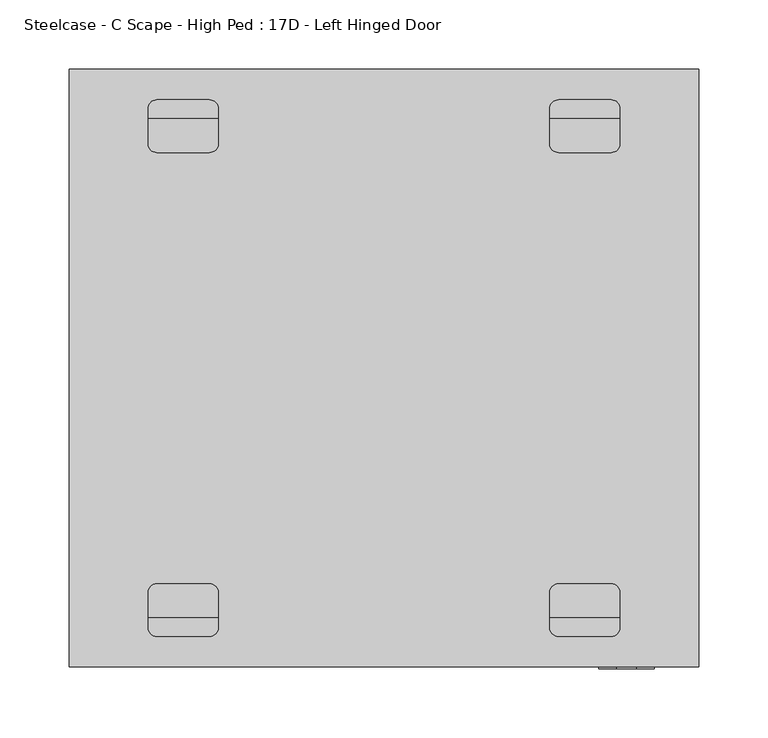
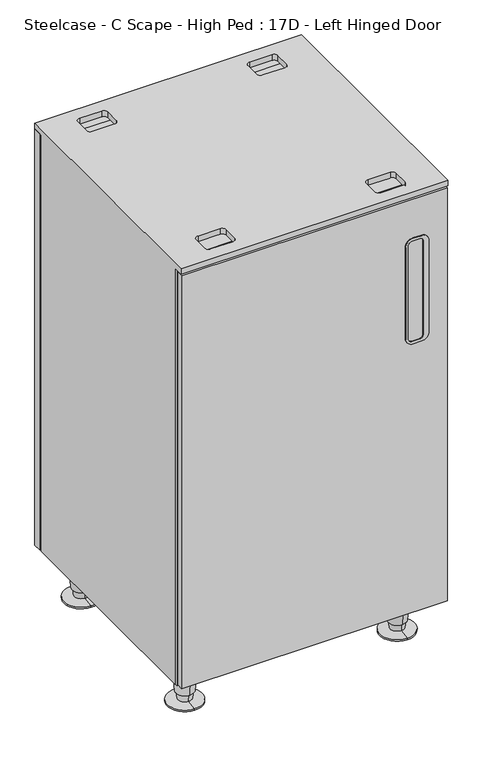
"""IFC4 building model written with IfcOpenShell, lengths in millimetres: furniture geometry, Steelcase - C Scape - High Ped : 17D - Left Hinged Door."""

from ifc_helpers import new_model, si_unit, point, frame, frame_2d, origin, place, context, project, spatial, polyline, circle_curve, trimmed, segment, composite_curve, outline, extrude, faceted_brep, source, transform, mapped, element, save
from ifc_brep_helpers import plane_surface, cylinder_surface, revolved_surface, advanced_brep


def steelcase_c_scape_high_ped_17d_left_hinged_door_7c8358b6(model_context):
    return source(origin(), model_context, "Body", "SolidModel", [
        extrude(outline(polyline([(455.295, 0.0), (455.295, -13.8429225), (445.1174429, -13.8429225), (433.069569, -21.0820155), (21.5898062, -21.0820155), (9.5419322, -13.8429225), (-0.635, -13.8429225), (-0.635, 0.0), (455.295, 0.0)])), frame((0.0, 0.0, 76.2), z_axis=(0.0, 0.0, 1.0), x_axis=(1.0, 0.0, 0.0)), (0.0, 0.0, 1.0), 751.84),
        extrude(outline(composite_curve([segment(polyline([(742.3150339, 382.7782248), (577.2149855, 382.7782248)]), True, "CONTINUOUS"), segment(trimmed(circle_curve(frame_2d((577.2149855, 395.4782248)), 12.7), [point((577.2149855, 382.7782248))], [point((564.5149855, 395.4782248))], False, "CARTESIAN"), True, "CONTINUOUS"), segment(polyline([(564.5149855, 395.4782248), (564.5149855, 410.0827597)]), True, "CONTINUOUS"), segment(trimmed(circle_curve(frame_2d((577.2149855, 410.0827597)), 12.7), [point((564.5149855, 410.0827597))], [point((577.2149855, 422.7827597))], False, "CARTESIAN"), True, "CONTINUOUS"), segment(polyline([(577.2149855, 422.7827597), (742.3150339, 422.7827597)]), True, "CONTINUOUS"), segment(trimmed(circle_curve(frame_2d((742.3150339, 410.0827597)), 12.7), [point((742.3150339, 422.7827597))], [point((755.0150339, 410.0827597))], False, "CARTESIAN"), True, "CONTINUOUS"), segment(polyline([(755.0150339, 410.0827597), (755.0150339, 395.4782248)]), True, "CONTINUOUS"), segment(trimmed(circle_curve(frame_2d((742.3150339, 395.4782248)), 12.7), [point((755.0150339, 395.4782248))], [point((742.3150339, 382.7782248))], False, "CARTESIAN"), True, "CONTINUOUS")], self_intersect=False), holes=[composite_curve([segment(polyline([(743.8390203, 413.0042868), (575.690999, 413.0042868)]), True, "CONTINUOUS"), segment(trimmed(circle_curve(frame_2d((575.690999, 406.6542868)), 6.35), [point((575.690999, 413.0042868))], [point((569.340999, 406.6542868))], True, "CARTESIAN"), True, "CONTINUOUS"), segment(polyline([(569.340999, 406.6542868), (569.340999, 393.954093)]), True, "CONTINUOUS"), segment(trimmed(circle_curve(frame_2d((575.690999, 393.954093)), 6.35), [point((569.340999, 393.954093))], [point((575.690999, 387.604093))], True, "CARTESIAN"), True, "CONTINUOUS"), segment(polyline([(575.690999, 387.604093), (743.8390203, 387.604093)]), True, "CONTINUOUS"), segment(trimmed(circle_curve(frame_2d((743.8390203, 393.954093)), 6.35), [point((743.8390203, 387.604093))], [point((750.1890203, 393.954093))], True, "CARTESIAN"), True, "CONTINUOUS"), segment(polyline([(750.1890203, 393.954093), (750.1890203, 406.6542868)]), True, "CONTINUOUS"), segment(trimmed(circle_curve(frame_2d((743.8390203, 406.6542868)), 6.35), [point((750.1890203, 406.6542868))], [point((743.8390203, 413.0042868))], True, "CARTESIAN"), True, "CONTINUOUS")], self_intersect=False)]), frame((0.0, -434.340126, 0.0), z_axis=(0.0, 1.0, 0.0), x_axis=(0.0, 0.0, 1.0)), (0.0, 0.0, 1.0), 1.270126),
        extrude(outline(polyline([(0.3980765, -433.07), (0.3980765, -422.5289283), (454.5331473, -422.5289283), (454.5331473, -433.07), (0.3980765, -433.07)])), frame((0.0, 0.0, 79.374997), z_axis=(0.0, 0.0, 1.0), x_axis=(1.0, 0.0, 0.0)), (0.0, 0.0, 1.0), 745.4899885),
        extrude(outline(polyline([(11.5822775, -415.036), (11.5822775, -397.2560233), (21.5898062, -397.2560233), (21.5898062, -412.2419845), (9.5419322, -419.4810775), (0.3980765, -419.4810775), (0.3980765, -415.036), (11.5822775, -415.036)])), frame((0.0, 0.0, 76.2), z_axis=(0.0, 0.0, 1.0), x_axis=(1.0, 0.0, 0.0)), (0.0, 0.0, 1.0), 751.84),
        extrude(outline(polyline([(443.0776, -415.036), (454.2616522, -415.036), (454.2616522, -419.4810775), (445.1174429, -419.4810775), (433.07, -412.2422435), (433.07, -397.2560233), (443.0776, -397.2560233), (443.0776, -415.036)])), frame((0.0, 0.0, 76.2), z_axis=(0.0, 0.0, 1.0), x_axis=(1.0, 0.0, 0.0)), (0.0, 0.0, 1.0), 751.84),
        advanced_brep(
        [(408.94, -393.3610306, 0.0), (408.94, -334.1355906, 0.0), (408.94, -363.7483106, 0.0), (408.94, -393.3610306, 2.6912335), (408.94, -334.1355906, 2.6912335), (408.94, -375.7058983, 5.8043097), (408.94, -351.7907229, 5.8043097), (408.94, -376.4000755, 19.05), (408.94, -351.0965457, 19.05), (408.94, -379.1261713, 19.05), (408.94, -348.3704499, 19.05), (408.94, -383.1224886, 76.2), (408.94, -344.3741326, 76.2), (408.94, -363.7483106, 76.2)],
        [
            (0, 1, circle_curve(frame((408.94, -363.7483106, 0.0), z_axis=(0.0, 0.0, -1.0), x_axis=(0.0, 1.0, 0.0)), 29.61272)),
            (1, 2),
            (2, 0),
            (1, 0, circle_curve(frame((408.94, -363.7483106, 0.0), z_axis=(0.0, 0.0, -1.0), x_axis=(0.0, 1.0, 0.0)), 29.61272)),
            (3, 4, circle_curve(frame((408.94, -363.7483106, 2.6912335), z_axis=(0.0, 0.0, -1.0), x_axis=(0.0, 1.0, 0.0)), 29.61272)),
            (4, 1),
            (0, 3),
            (4, 3, circle_curve(frame((408.94, -363.7483106, 2.6912335), z_axis=(0.0, 0.0, -1.0), x_axis=(0.0, 1.0, 0.0)), 29.61272)),
            (5, 6, circle_curve(frame((408.94, -363.7483106, 5.8043097), z_axis=(0.0, 0.0, -1.0), x_axis=(0.0, 1.0, 0.0)), 11.9575877)),
            (6, 4),
            (3, 5),
            (6, 5, circle_curve(frame((408.94, -363.7483106, 5.8043097), z_axis=(0.0, 0.0, -1.0), x_axis=(0.0, 1.0, 0.0)), 11.9575877)),
            (7, 8, circle_curve(frame((408.94, -363.7483106, 19.05), z_axis=(0.0, 0.0, -1.0), x_axis=(0.0, 1.0, 0.0)), 12.6517649)),
            (8, 6),
            (5, 7),
            (8, 7, circle_curve(frame((408.94, -363.7483106, 19.05), z_axis=(0.0, 0.0, -1.0), x_axis=(0.0, 1.0, 0.0)), 12.6517649)),
            (9, 10, circle_curve(frame((408.94, -363.7483106, 19.05), z_axis=(0.0, 0.0, -1.0), x_axis=(0.0, 1.0, 0.0)), 15.3778607)),
            (10, 8),
            (7, 9),
            (10, 9, circle_curve(frame((408.94, -363.7483106, 19.05), z_axis=(0.0, 0.0, -1.0), x_axis=(0.0, 1.0, 0.0)), 15.3778607)),
            (11, 12, circle_curve(frame((408.94, -363.7483106, 76.2), z_axis=(0.0, 0.0, -1.0), x_axis=(0.0, 1.0, 0.0)), 19.374178)),
            (12, 10),
            (9, 11),
            (12, 11, circle_curve(frame((408.94, -363.7483106, 76.2), z_axis=(0.0, 0.0, -1.0), x_axis=(0.0, 1.0, 0.0)), 19.374178)),
            (13, 12),
            (11, 13),
        ],
        [
            plane_surface(frame((408.94, -363.7483106, 0.0), z_axis=(0.0, 0.0, -1.0), x_axis=(0.0, 1.0, 0.0))),
            cylinder_surface(frame((408.94, -363.7483106, -7.7422201), z_axis=(0.0, 0.0, 1.0), x_axis=(0.0, 1.0, 0.0)), 29.61272),
            revolved_surface(polyline([(408.94, -334.1355906, 2.6912335), (408.94, -351.7907229, 5.8043097)]), (408.94, -363.7483106, -7.7422201), (0.0, 0.0, 1.0)),
            revolved_surface(polyline([(408.94, -351.7907229, 5.8043097), (408.94, -351.0965457, 19.05)]), (408.94, -363.7483106, -7.7422201), (0.0, 0.0, 1.0)),
            plane_surface(frame((408.94, -363.7483106, 19.05), z_axis=(0.0, 0.0, -1.0), x_axis=(0.0, 1.0, 0.0))),
            revolved_surface(polyline([(408.94, -348.3704499, 19.05), (408.94, -344.3741326, 76.2)]), (408.94, -363.7483106, -7.7422201), (0.0, 0.0, 1.0)),
            plane_surface(frame((408.94, -363.7483106, 76.2), z_axis=(0.0, 0.0, 1.0), x_axis=(0.0, 1.0, 0.0))),
        ],
        [
            (0, [[1, 2, 3]]),
            (0, [[4, -3, -2]]),
            (1, [[5, 6, -1, 7]]),
            (1, [[8, -7, -4, -6]]),
            (2, [[9, 10, -5, 11]]),
            (2, [[12, -11, -8, -10]]),
            (3, [[13, 14, -9, 15]]),
            (3, [[16, -15, -12, -14]]),
            (4, [[17, 18, -13, 19]]),
            (4, [[20, -19, -16, -18]]),
            (5, [[21, 22, -17, 23]]),
            (5, [[24, -23, -20, -22]]),
            (6, [[25, -21, 26]]),
            (6, [[-26, -24, -25]]),
        ],
    ),
        advanced_brep(
        [(408.94, -37.8824339, 76.2), (408.94, -76.6307898, 76.2), (408.94, -57.2566119, 76.2), (408.94, -41.8787512, 19.05), (408.94, -72.6344725, 19.05), (408.94, -44.6048469, 19.05), (408.94, -69.9083768, 19.05), (408.94, -45.2990242, 5.8043097), (408.94, -69.2141995, 5.8043097), (408.94, -27.6438918, 2.6912335), (408.94, -86.8693319, 2.6912335), (408.94, -27.6438918, 0.0), (408.94, -86.8693319, 0.0), (408.94, -57.2566119, 0.0)],
        [
            (0, 1, circle_curve(frame((408.94, -57.2566119, 76.2), z_axis=(0.0, 0.0, 1.0), x_axis=(0.0, -1.0, 0.0)), 19.374178)),
            (1, 2),
            (2, 0),
            (1, 0, circle_curve(frame((408.94, -57.2566119, 76.2), z_axis=(0.0, 0.0, 1.0), x_axis=(0.0, -1.0, 0.0)), 19.374178)),
            (3, 4, circle_curve(frame((408.94, -57.2566119, 19.05), z_axis=(0.0, 0.0, 1.0), x_axis=(0.0, -1.0, 0.0)), 15.3778607)),
            (4, 1),
            (0, 3),
            (4, 3, circle_curve(frame((408.94, -57.2566119, 19.05), z_axis=(0.0, 0.0, 1.0), x_axis=(0.0, -1.0, 0.0)), 15.3778607)),
            (5, 6, circle_curve(frame((408.94, -57.2566119, 19.05), z_axis=(0.0, 0.0, 1.0), x_axis=(0.0, -1.0, 0.0)), 12.6517649)),
            (6, 4),
            (3, 5),
            (6, 5, circle_curve(frame((408.94, -57.2566119, 19.05), z_axis=(0.0, 0.0, 1.0), x_axis=(0.0, -1.0, 0.0)), 12.6517649)),
            (7, 8, circle_curve(frame((408.94, -57.2566119, 5.8043097), z_axis=(0.0, 0.0, 1.0), x_axis=(0.0, -1.0, 0.0)), 11.9575877)),
            (8, 6),
            (5, 7),
            (8, 7, circle_curve(frame((408.94, -57.2566119, 5.8043097), z_axis=(0.0, 0.0, 1.0), x_axis=(0.0, -1.0, 0.0)), 11.9575877)),
            (9, 10, circle_curve(frame((408.94, -57.2566119, 2.6912335), z_axis=(0.0, 0.0, 1.0), x_axis=(0.0, -1.0, 0.0)), 29.61272)),
            (10, 8),
            (7, 9),
            (10, 9, circle_curve(frame((408.94, -57.2566119, 2.6912335), z_axis=(0.0, 0.0, 1.0), x_axis=(0.0, -1.0, 0.0)), 29.61272)),
            (11, 12, circle_curve(frame((408.94, -57.2566119, 0.0), z_axis=(0.0, 0.0, 1.0), x_axis=(0.0, -1.0, 0.0)), 29.61272)),
            (12, 10),
            (9, 11),
            (12, 11, circle_curve(frame((408.94, -57.2566119, 0.0), z_axis=(0.0, 0.0, 1.0), x_axis=(0.0, -1.0, 0.0)), 29.61272)),
            (13, 12),
            (11, 13),
        ],
        [
            plane_surface(frame((408.94, -57.2566119, 76.2), z_axis=(0.0, 0.0, 1.0), x_axis=(0.0, -1.0, 0.0))),
            revolved_surface(polyline([(408.94, -76.6307898, 76.2), (408.94, -72.6344725, 19.05)]), (408.94, -57.2566119, -7.7422201), (0.0, 0.0, -1.0)),
            plane_surface(frame((408.94, -57.2566119, 19.05), z_axis=(0.0, 0.0, -1.0), x_axis=(0.0, -1.0, 0.0))),
            revolved_surface(polyline([(408.94, -69.9083768, 19.05), (408.94, -69.2141995, 5.8043097)]), (408.94, -57.2566119, -7.7422201), (0.0, 0.0, -1.0)),
            revolved_surface(polyline([(408.94, -69.2141995, 5.8043097), (408.94, -86.8693319, 2.6912335)]), (408.94, -57.2566119, -7.7422201), (0.0, 0.0, -1.0)),
            cylinder_surface(frame((408.94, -57.2566119, -7.7422201), z_axis=(0.0, 0.0, -1.0), x_axis=(0.0, -1.0, 0.0)), 29.61272),
            plane_surface(frame((408.94, -57.2566119, 0.0), z_axis=(0.0, 0.0, -1.0), x_axis=(0.0, -1.0, 0.0))),
        ],
        [
            (0, [[1, 2, 3]]),
            (0, [[4, -3, -2]]),
            (1, [[5, 6, -1, 7]]),
            (1, [[8, -7, -4, -6]]),
            (2, [[9, 10, -5, 11]]),
            (2, [[12, -11, -8, -10]]),
            (3, [[13, 14, -9, 15]]),
            (3, [[16, -15, -12, -14]]),
            (4, [[17, 18, -13, 19]]),
            (4, [[20, -19, -16, -18]]),
            (5, [[21, 22, -17, 23]]),
            (5, [[24, -23, -20, -22]]),
            (6, [[25, -21, 26]]),
            (6, [[-26, -24, -25]]),
        ],
    ),
        advanced_brep(
        [(45.7198062, -383.1224886, 76.2), (45.7198062, -344.3741326, 76.2), (45.7198062, -363.7483106, 76.2), (45.7198062, -379.1261713, 19.05), (45.7198062, -348.3704499, 19.05), (45.7198062, -376.4000755, 19.05), (45.7198062, -351.0965457, 19.05), (45.7198062, -375.7058983, 5.8043097), (45.7198062, -351.7907229, 5.8043097), (45.7198062, -393.3610306, 2.6912335), (45.7198062, -334.1355906, 2.6912335), (45.7198062, -393.3610306, 0.0), (45.7198062, -334.1355906, 0.0), (45.7198062, -363.7483106, 0.0)],
        [
            (0, 1, circle_curve(frame((45.7198062, -363.7483106, 76.2), z_axis=(0.0, 0.0, 1.0), x_axis=(0.0, 1.0, 0.0)), 19.374178)),
            (1, 2),
            (2, 0),
            (1, 0, circle_curve(frame((45.7198062, -363.7483106, 76.2), z_axis=(0.0, 0.0, 1.0), x_axis=(0.0, 1.0, 0.0)), 19.374178)),
            (3, 4, circle_curve(frame((45.7198062, -363.7483106, 19.05), z_axis=(0.0, 0.0, 1.0), x_axis=(0.0, 1.0, 0.0)), 15.3778607)),
            (4, 1),
            (0, 3),
            (4, 3, circle_curve(frame((45.7198062, -363.7483106, 19.05), z_axis=(0.0, 0.0, 1.0), x_axis=(0.0, 1.0, 0.0)), 15.3778607)),
            (5, 6, circle_curve(frame((45.7198062, -363.7483106, 19.05), z_axis=(0.0, 0.0, 1.0), x_axis=(0.0, 1.0, 0.0)), 12.6517649)),
            (6, 4),
            (3, 5),
            (6, 5, circle_curve(frame((45.7198062, -363.7483106, 19.05), z_axis=(0.0, 0.0, 1.0), x_axis=(0.0, 1.0, 0.0)), 12.6517649)),
            (7, 8, circle_curve(frame((45.7198062, -363.7483106, 5.8043097), z_axis=(0.0, 0.0, 1.0), x_axis=(0.0, 1.0, 0.0)), 11.9575877)),
            (8, 6),
            (5, 7),
            (8, 7, circle_curve(frame((45.7198062, -363.7483106, 5.8043097), z_axis=(0.0, 0.0, 1.0), x_axis=(0.0, 1.0, 0.0)), 11.9575877)),
            (9, 10, circle_curve(frame((45.7198062, -363.7483106, 2.6912335), z_axis=(0.0, 0.0, 1.0), x_axis=(0.0, 1.0, 0.0)), 29.61272)),
            (10, 8),
            (7, 9),
            (10, 9, circle_curve(frame((45.7198062, -363.7483106, 2.6912335), z_axis=(0.0, 0.0, 1.0), x_axis=(0.0, 1.0, 0.0)), 29.61272)),
            (11, 12, circle_curve(frame((45.7198062, -363.7483106, 0.0), z_axis=(0.0, 0.0, 1.0), x_axis=(0.0, 1.0, 0.0)), 29.61272)),
            (12, 10),
            (9, 11),
            (12, 11, circle_curve(frame((45.7198062, -363.7483106, 0.0), z_axis=(0.0, 0.0, 1.0), x_axis=(0.0, 1.0, 0.0)), 29.61272)),
            (13, 12),
            (11, 13),
        ],
        [
            plane_surface(frame((45.7198062, -363.7483106, 76.2), z_axis=(0.0, 0.0, 1.0), x_axis=(0.0, 1.0, 0.0))),
            revolved_surface(polyline([(45.7198062, -344.3741326, 76.2), (45.7198062, -348.3704499, 19.05)]), (45.7198062, -363.7483106, -7.7422201), (0.0, 0.0, -1.0)),
            plane_surface(frame((45.7198062, -363.7483106, 19.05), z_axis=(0.0, 0.0, -1.0), x_axis=(0.0, 1.0, 0.0))),
            revolved_surface(polyline([(45.7198062, -351.0965457, 19.05), (45.7198062, -351.7907229, 5.8043097)]), (45.7198062, -363.7483106, -7.7422201), (0.0, 0.0, -1.0)),
            revolved_surface(polyline([(45.7198062, -351.7907229, 5.8043097), (45.7198062, -334.1355906, 2.6912335)]), (45.7198062, -363.7483106, -7.7422201), (0.0, 0.0, -1.0)),
            cylinder_surface(frame((45.7198062, -363.7483106, -7.7422201), z_axis=(0.0, 0.0, -1.0), x_axis=(0.0, 1.0, 0.0)), 29.61272),
            plane_surface(frame((45.7198062, -363.7483106, 0.0), z_axis=(0.0, 0.0, -1.0), x_axis=(0.0, 1.0, 0.0))),
        ],
        [
            (0, [[1, 2, 3]]),
            (0, [[4, -3, -2]]),
            (1, [[5, 6, -1, 7]]),
            (1, [[8, -7, -4, -6]]),
            (2, [[9, 10, -5, 11]]),
            (2, [[12, -11, -8, -10]]),
            (3, [[13, 14, -9, 15]]),
            (3, [[16, -15, -12, -14]]),
            (4, [[17, 18, -13, 19]]),
            (4, [[20, -19, -16, -18]]),
            (5, [[21, 22, -17, 23]]),
            (5, [[24, -23, -20, -22]]),
            (6, [[25, -21, 26]]),
            (6, [[-26, -24, -25]]),
        ],
    ),
        advanced_brep(
        [(45.7198062, -27.6438918, 0.0), (45.7198062, -86.8693319, 0.0), (45.7198062, -57.2566119, 0.0), (45.7198062, -27.6438918, 2.6912335), (45.7198062, -86.8693319, 2.6912335), (45.7198062, -45.2990242, 5.8043097), (45.7198062, -69.2141995, 5.8043097), (45.7198062, -44.6048469, 19.05), (45.7198062, -69.9083768, 19.05), (45.7198062, -41.8787512, 19.05), (45.7198062, -72.6344725, 19.05), (45.7198062, -37.8824339, 76.2), (45.7198062, -76.6307898, 76.2), (45.7198062, -57.2566119, 76.2)],
        [
            (0, 1, circle_curve(frame((45.7198062, -57.2566119, 0.0), z_axis=(0.0, 0.0, -1.0), x_axis=(0.0, -1.0, 0.0)), 29.61272)),
            (1, 2),
            (2, 0),
            (1, 0, circle_curve(frame((45.7198062, -57.2566119, 0.0), z_axis=(0.0, 0.0, -1.0), x_axis=(0.0, -1.0, 0.0)), 29.61272)),
            (3, 4, circle_curve(frame((45.7198062, -57.2566119, 2.6912335), z_axis=(0.0, 0.0, -1.0), x_axis=(0.0, -1.0, 0.0)), 29.61272)),
            (4, 1),
            (0, 3),
            (4, 3, circle_curve(frame((45.7198062, -57.2566119, 2.6912335), z_axis=(0.0, 0.0, -1.0), x_axis=(0.0, -1.0, 0.0)), 29.61272)),
            (5, 6, circle_curve(frame((45.7198062, -57.2566119, 5.8043097), z_axis=(0.0, 0.0, -1.0), x_axis=(0.0, -1.0, 0.0)), 11.9575877)),
            (6, 4),
            (3, 5),
            (6, 5, circle_curve(frame((45.7198062, -57.2566119, 5.8043097), z_axis=(0.0, 0.0, -1.0), x_axis=(0.0, -1.0, 0.0)), 11.9575877)),
            (7, 8, circle_curve(frame((45.7198062, -57.2566119, 19.05), z_axis=(0.0, 0.0, -1.0), x_axis=(0.0, -1.0, 0.0)), 12.6517649)),
            (8, 6),
            (5, 7),
            (8, 7, circle_curve(frame((45.7198062, -57.2566119, 19.05), z_axis=(0.0, 0.0, -1.0), x_axis=(0.0, -1.0, 0.0)), 12.6517649)),
            (9, 10, circle_curve(frame((45.7198062, -57.2566119, 19.05), z_axis=(0.0, 0.0, -1.0), x_axis=(0.0, -1.0, 0.0)), 15.3778607)),
            (10, 8),
            (7, 9),
            (10, 9, circle_curve(frame((45.7198062, -57.2566119, 19.05), z_axis=(0.0, 0.0, -1.0), x_axis=(0.0, -1.0, 0.0)), 15.3778607)),
            (11, 12, circle_curve(frame((45.7198062, -57.2566119, 76.2), z_axis=(0.0, 0.0, -1.0), x_axis=(0.0, -1.0, 0.0)), 19.374178)),
            (12, 10),
            (9, 11),
            (12, 11, circle_curve(frame((45.7198062, -57.2566119, 76.2), z_axis=(0.0, 0.0, -1.0), x_axis=(0.0, -1.0, 0.0)), 19.374178)),
            (13, 12),
            (11, 13),
        ],
        [
            plane_surface(frame((45.7198062, -57.2566119, 0.0), z_axis=(0.0, 0.0, -1.0), x_axis=(0.0, -1.0, 0.0))),
            cylinder_surface(frame((45.7198062, -57.2566119, -7.7422201), z_axis=(0.0, 0.0, 1.0), x_axis=(0.0, -1.0, 0.0)), 29.61272),
            revolved_surface(polyline([(45.7198062, -86.8693319, 2.6912335), (45.7198062, -69.2141995, 5.8043097)]), (45.7198062, -57.2566119, -7.7422201), (0.0, 0.0, 1.0)),
            revolved_surface(polyline([(45.7198062, -69.2141995, 5.8043097), (45.7198062, -69.9083768, 19.05)]), (45.7198062, -57.2566119, -7.7422201), (0.0, 0.0, 1.0)),
            plane_surface(frame((45.7198062, -57.2566119, 19.05), z_axis=(0.0, 0.0, -1.0), x_axis=(0.0, -1.0, 0.0))),
            revolved_surface(polyline([(45.7198062, -72.6344725, 19.05), (45.7198062, -76.6307898, 76.2)]), (45.7198062, -57.2566119, -7.7422201), (0.0, 0.0, 1.0)),
            plane_surface(frame((45.7198062, -57.2566119, 76.2), z_axis=(0.0, 0.0, 1.0), x_axis=(0.0, -1.0, 0.0))),
        ],
        [
            (0, [[1, 2, 3]]),
            (0, [[4, -3, -2]]),
            (1, [[5, 6, -1, 7]]),
            (1, [[8, -7, -4, -6]]),
            (2, [[9, 10, -5, 11]]),
            (2, [[12, -11, -8, -10]]),
            (3, [[13, 14, -9, 15]]),
            (3, [[16, -15, -12, -14]]),
            (4, [[17, 18, -13, 19]]),
            (4, [[20, -19, -16, -18]]),
            (5, [[21, 22, -17, 23]]),
            (5, [[24, -23, -20, -22]]),
            (6, [[25, -21, 26]]),
            (6, [[-26, -24, -25]]),
        ],
    ),
        advanced_brep(
        [(-0.635, -433.07, 838.2), (-0.635, 0.0, 838.2), (-0.635, 0.0, 828.04), (-0.635, -18.288, 828.04), (-0.635, -18.288, 76.2), (-0.635, -415.036, 76.2), (-0.635, -415.036, 828.04), (-0.635, -433.07, 828.04), (455.295, -433.07, 838.2), (455.295, -433.07, 828.04), (455.295, -415.036, 828.04), (455.295, -415.036, 76.2), (455.295, -18.288, 76.2), (455.295, -18.288, 828.04), (455.295, 0.0, 828.04), (455.295, 0.0, 838.2), (21.5898062, -397.2560233, 92.7100024), (433.0701938, -397.2560233, 92.7100024), (433.0701938, -36.0679767, 92.7100024), (21.5898062, -36.0679767, 92.7100024), (443.0777225, -36.0679767, 828.04), (443.0777225, -36.0679767, 76.2), (11.5822775, -36.0679767, 76.2), (11.5822775, -36.0679767, 828.04), (56.5151938, -36.0679767, 828.04), (107.3148062, -36.0679767, 828.04), (347.3449225, -36.0679767, 828.04), (398.1445349, -36.0679767, 828.04), (433.0701938, -36.0679767, 441.604404), (21.5898062, -36.0679767, 441.604404), (21.5898062, -36.0679767, 457.2), (433.0701938, -36.0679767, 457.2), (433.0701938, -36.0679767, 811.5299709), (21.5898062, -36.0679767, 811.5299709), (11.5822775, -18.288, 76.2), (443.0777225, -18.288, 76.2), (443.0777225, -415.036, 76.2), (443.0777225, -397.2560233, 76.2), (11.5822775, -397.2560233, 76.2), (11.5822775, -415.036, 76.2), (347.3449225, -397.2560233, 828.04), (107.3148062, -397.2560233, 828.04), (56.5151938, -397.2560233, 828.04), (11.5822775, -397.2560233, 828.04), (443.0777225, -397.2560233, 828.04), (398.1445349, -397.2560233, 828.04), (21.5898062, -397.2560233, 441.604404), (433.0701938, -397.2560233, 441.604404), (433.0701938, -397.2560233, 457.2), (21.5898062, -397.2560233, 457.2), (21.5898062, -397.2560233, 811.5299709), (433.0701938, -397.2560233, 811.5299709), (100.9648062, -410.9720465, 838.2), (62.8651938, -410.9720465, 838.2), (56.5151938, -404.6212714, 838.2), (56.5151938, -379.2220465, 838.2), (62.8651938, -372.8720465, 838.2), (100.9648062, -372.8720465, 838.2), (107.3148062, -379.2220465, 838.2), (107.3148062, -404.6212714, 838.2), (353.694535, -410.9712714, 838.2), (347.3449225, -404.6212714, 838.2), (347.3449225, -379.2220465, 838.2), (353.6949225, -372.8720465, 838.2), (391.7945349, -372.8720465, 838.2), (398.1445349, -379.2220465, 838.2), (398.1445349, -404.6212714, 838.2), (391.7945349, -410.9712714, 838.2), (107.3148062, -54.1015117, 838.2), (100.9648062, -60.4515117, 838.2), (62.8651938, -60.4522868, 838.2), (56.5151938, -54.1015117, 838.2), (56.5151938, -28.7022868, 838.2), (62.8651938, -22.3522868, 838.2), (100.9648062, -22.3522868, 838.2), (107.3148062, -28.7022868, 838.2), (391.7945349, -60.4522868, 838.2), (353.694535, -60.4522868, 838.2), (347.3449225, -54.1015117, 838.2), (347.3449225, -28.7022868, 838.2), (353.6949225, -22.3522868, 838.2), (391.7945349, -22.3522868, 838.2), (398.1445349, -28.7022868, 838.2), (398.1445349, -54.1015117, 838.2), (443.0777225, -18.288, 828.04), (398.1445349, -28.7022868, 828.04), (391.7945349, -22.3522868, 828.04), (353.6949225, -22.3522868, 828.04), (347.3449225, -28.7022868, 828.04), (107.3148062, -28.7022868, 828.04), (100.9648062, -22.3522868, 828.04), (62.8651938, -22.3522868, 828.04), (56.5151938, -28.7022868, 828.04), (11.5822775, -18.288, 828.04), (11.5822775, -415.036, 828.04), (56.5151938, -404.6212714, 828.04), (62.8651938, -410.9712714, 828.04), (100.9648062, -410.9720465, 828.04), (107.3148062, -404.6212714, 828.04), (347.3449225, -404.6212714, 828.04), (353.694535, -410.9712714, 828.04), (391.7945349, -410.9720465, 828.04), (398.1445349, -404.6212714, 828.04), (443.0777225, -415.036, 828.04), (107.3148062, -379.2220465, 828.04), (100.9648062, -372.8720465, 828.04), (62.8651938, -372.8720465, 828.04), (56.5151938, -379.2220465, 828.04), (398.1445349, -379.2220465, 828.04), (391.7945349, -372.8720465, 828.04), (353.6949225, -372.8720465, 828.04), (347.3449225, -379.2220465, 828.04), (100.9648062, -60.4515117, 828.04), (107.3148062, -54.1015117, 828.04), (56.5151938, -54.1015117, 828.04), (62.8651938, -60.4515117, 828.04), (353.6945349, -60.4522868, 828.04), (391.7945349, -60.4522868, 828.04), (398.1445349, -54.1015117, 828.04), (347.3449225, -54.1015117, 828.04)],
        [
            (0, 1),
            (1, 2),
            (2, 3),
            (3, 4),
            (4, 5),
            (5, 6),
            (6, 7),
            (7, 0),
            (8, 9),
            (9, 10),
            (10, 11),
            (11, 12),
            (12, 13),
            (13, 14),
            (14, 15),
            (15, 8),
            (16, 17),
            (17, 18),
            (18, 19),
            (19, 16),
            (20, 21),
            (21, 22),
            (22, 23),
            (23, 24),
            (24, 25),
            (25, 26),
            (26, 27),
            (27, 20),
            (18, 28),
            (28, 29),
            (29, 19),
            (30, 31),
            (31, 32),
            (32, 33),
            (33, 30),
            (34, 22),
            (21, 35),
            (35, 12),
            (11, 36),
            (36, 37),
            (37, 38),
            (38, 39),
            (39, 5),
            (4, 34),
            (40, 41),
            (41, 42),
            (42, 43),
            (43, 38),
            (37, 44),
            (44, 45),
            (45, 40),
            (16, 46),
            (46, 47),
            (47, 17),
            (48, 49),
            (49, 50),
            (50, 51),
            (51, 48),
            (48, 31),
            (30, 49),
            (28, 47),
            (46, 29),
            (0, 8),
            (15, 1),
            (52, 53),
            (53, 54, circle_curve(frame((62.8651938, -404.6212714, 838.2), z_axis=(0.0, 0.0, -1.0), x_axis=(0.0, -1.0, 0.0)), 6.35)),
            (54, 55),
            (55, 56, circle_curve(frame((62.8651938, -379.2220465, 838.2), z_axis=(0.0, 0.0, -1.0), x_axis=(0.0, -1.0, 0.0)), 6.35)),
            (56, 57),
            (57, 58, circle_curve(frame((100.9648062, -379.2220465, 838.2), z_axis=(0.0, 0.0, -1.0), x_axis=(0.0, -1.0, 0.0)), 6.35)),
            (58, 59),
            (59, 52, circle_curve(frame((100.9648062, -404.6212714, 838.2), z_axis=(0.0, 0.0, -1.0), x_axis=(0.0, -1.0, 0.0)), 6.35)),
            (60, 61, circle_curve(frame((353.6949225, -404.6212714, 838.2), z_axis=(0.0, 0.0, -1.0), x_axis=(0.0, -1.0, 0.0)), 6.35)),
            (61, 62),
            (62, 63, circle_curve(frame((353.6949225, -379.2220465, 838.2), z_axis=(0.0, 0.0, -1.0), x_axis=(0.0, -1.0, 0.0)), 6.35)),
            (63, 64),
            (64, 65, circle_curve(frame((391.7945349, -379.2220465, 838.2), z_axis=(0.0, 0.0, -1.0), x_axis=(0.0, -1.0, 0.0)), 6.35)),
            (65, 66),
            (66, 67, circle_curve(frame((391.7945349, -404.6212714, 838.2), z_axis=(0.0, 0.0, -1.0), x_axis=(0.0, -1.0, 0.0)), 6.35)),
            (67, 60),
            (68, 69, circle_curve(frame((100.9648062, -54.1015117, 838.2), z_axis=(0.0, 0.0, -1.0), x_axis=(0.0, 1.0, 0.0)), 6.35)),
            (69, 70),
            (70, 71, circle_curve(frame((62.8651938, -54.1015117, 838.2), z_axis=(0.0, 0.0, -1.0), x_axis=(0.0, 1.0, 0.0)), 6.35)),
            (71, 72),
            (72, 73, circle_curve(frame((62.8651938, -28.7022868, 838.2), z_axis=(0.0, 0.0, -1.0), x_axis=(0.0, 1.0, 0.0)), 6.35)),
            (73, 74),
            (74, 75, circle_curve(frame((100.9648062, -28.7022868, 838.2), z_axis=(0.0, 0.0, -1.0), x_axis=(0.0, 1.0, 0.0)), 6.35)),
            (75, 68),
            (76, 77),
            (77, 78, circle_curve(frame((353.6949225, -54.1015117, 838.2), z_axis=(0.0, 0.0, -1.0), x_axis=(0.0, 1.0, 0.0)), 6.35)),
            (78, 79),
            (79, 80, circle_curve(frame((353.6949225, -28.7022868, 838.2), z_axis=(0.0, 0.0, -1.0), x_axis=(0.0, 1.0, 0.0)), 6.35)),
            (80, 81),
            (81, 82, circle_curve(frame((391.7945349, -28.7022868, 838.2), z_axis=(0.0, 0.0, -1.0), x_axis=(0.0, 1.0, 0.0)), 6.35)),
            (82, 83),
            (83, 76, circle_curve(frame((391.7945349, -54.1015117, 838.2), z_axis=(0.0, 0.0, -1.0), x_axis=(0.0, 1.0, 0.0)), 6.35)),
            (14, 2),
            (13, 84),
            (84, 20),
            (27, 85),
            (85, 86, circle_curve(frame((391.7945349, -28.7022868, 828.04), z_axis=(0.0, 0.0, 1.0), x_axis=(0.0, 1.0, 0.0)), 6.35)),
            (86, 87),
            (87, 88, circle_curve(frame((353.6949225, -28.7022868, 828.04), z_axis=(0.0, 0.0, 1.0), x_axis=(0.0, 1.0, 0.0)), 6.35)),
            (88, 26),
            (25, 89),
            (89, 90, circle_curve(frame((100.9648062, -28.7022868, 828.04), z_axis=(0.0, 0.0, 1.0), x_axis=(0.0, 1.0, 0.0)), 6.35)),
            (90, 91),
            (91, 92, circle_curve(frame((62.8651938, -28.7022868, 828.04), z_axis=(0.0, 0.0, 1.0), x_axis=(0.0, 1.0, 0.0)), 6.35)),
            (92, 24),
            (23, 93),
            (93, 3),
            (32, 51),
            (50, 33),
            (9, 7),
            (6, 94),
            (94, 43),
            (42, 95),
            (95, 96, circle_curve(frame((62.8651938, -404.6212714, 828.04), z_axis=(0.0, 0.0, 1.0), x_axis=(0.0, -1.0, 0.0)), 6.35)),
            (96, 97),
            (97, 98, circle_curve(frame((100.9648062, -404.6212714, 828.04), z_axis=(0.0, 0.0, 1.0), x_axis=(0.0, -1.0, 0.0)), 6.35)),
            (98, 41),
            (40, 99),
            (99, 100, circle_curve(frame((353.6949225, -404.6212714, 828.04), z_axis=(0.0, 0.0, 1.0), x_axis=(0.0, -1.0, 0.0)), 6.35)),
            (100, 101),
            (101, 102, circle_curve(frame((391.7945349, -404.6212714, 828.04), z_axis=(0.0, 0.0, 1.0), x_axis=(0.0, -1.0, 0.0)), 6.35)),
            (102, 45),
            (44, 103),
            (103, 10),
            (104, 105, circle_curve(frame((100.9648062, -379.2220465, 828.04), z_axis=(0.0, 0.0, 1.0), x_axis=(0.0, -1.0, 0.0)), 6.35)),
            (105, 106),
            (106, 107, circle_curve(frame((62.8651938, -379.2220465, 828.04), z_axis=(0.0, 0.0, 1.0), x_axis=(0.0, -1.0, 0.0)), 6.35)),
            (107, 42),
            (41, 104),
            (108, 109, circle_curve(frame((391.7945349, -379.2220465, 828.04), z_axis=(0.0, 0.0, 1.0), x_axis=(0.0, -1.0, 0.0)), 6.35)),
            (109, 110),
            (110, 111, circle_curve(frame((353.6949225, -379.2220465, 828.04), z_axis=(0.0, 0.0, 1.0), x_axis=(0.0, -1.0, 0.0)), 6.35)),
            (111, 40),
            (45, 108),
            (96, 53),
            (52, 97),
            (95, 54),
            (107, 55),
            (106, 56),
            (105, 57),
            (104, 58),
            (98, 59),
            (99, 61),
            (60, 100),
            (111, 62),
            (110, 63),
            (109, 64),
            (108, 65),
            (102, 66),
            (101, 67),
            (93, 34),
            (39, 94),
            (84, 35),
            (36, 103),
            (112, 113, circle_curve(frame((100.9648062, -54.1015117, 828.04), z_axis=(0.0, 0.0, 1.0), x_axis=(0.0, 1.0, 0.0)), 6.35)),
            (113, 25),
            (24, 114),
            (114, 115, circle_curve(frame((62.8651938, -54.1015117, 828.04), z_axis=(0.0, 0.0, 1.0), x_axis=(0.0, 1.0, 0.0)), 6.35)),
            (115, 112),
            (116, 117),
            (117, 118, circle_curve(frame((391.7945349, -54.1015117, 828.04), z_axis=(0.0, 0.0, 1.0), x_axis=(0.0, 1.0, 0.0)), 6.35)),
            (118, 27),
            (26, 119),
            (119, 116, circle_curve(frame((353.6949225, -54.1015117, 828.04), z_axis=(0.0, 0.0, 1.0), x_axis=(0.0, 1.0, 0.0)), 6.35)),
            (115, 70),
            (69, 112),
            (114, 71),
            (92, 72),
            (91, 73),
            (90, 74),
            (89, 75),
            (113, 68),
            (119, 78),
            (77, 116),
            (88, 79),
            (87, 80),
            (86, 81),
            (85, 82),
            (118, 83),
            (117, 76),
        ],
        [
            plane_surface(frame((-0.635, -36.0679767, 92.7100024), z_axis=(-1.0, 0.0, 0.0), x_axis=(0.0, 1.0, 0.0))),
            plane_surface(frame((455.295, -36.0679767, 92.7100024), z_axis=(1.0, 0.0, 0.0), x_axis=(0.0, -1.0, 0.0))),
            plane_surface(frame((-0.635, -397.2560233, 92.7100024), z_axis=(0.0, 0.0, 1.0), x_axis=(1.0, 0.0, 0.0))),
            plane_surface(frame((-0.635, -36.0679767, 92.7100024), z_axis=(0.0, 1.0, 0.0), x_axis=(1.0, 0.0, 0.0))),
            plane_surface(frame((-0.635, -36.0679767, 76.2), z_axis=(0.0, 0.0, -1.0), x_axis=(1.0, 0.0, 0.0))),
            plane_surface(frame((-0.635, -397.2560233, 76.2), z_axis=(0.0, -1.0, 0.0), x_axis=(1.0, 0.0, 0.0))),
            plane_surface(frame((-0.635, -397.2560233, 457.2), z_axis=(0.0, 0.0, 1.0), x_axis=(1.0, 0.0, 0.0))),
            plane_surface(frame((-0.635, -36.0679767, 441.604404), z_axis=(0.0, 0.0, -1.0), x_axis=(1.0, 0.0, 0.0))),
            plane_surface(frame((-0.635, -433.07, 838.2), z_axis=(0.0, 0.0, 1.0), x_axis=(1.0, 0.0, 0.0))),
            plane_surface(frame((-0.635, 0.0, 838.2), z_axis=(0.0, 1.0, 0.0), x_axis=(1.0, 0.0, 0.0))),
            plane_surface(frame((-0.635, 0.0, 828.04), z_axis=(0.0, 0.0, -1.0), x_axis=(1.0, 0.0, 0.0))),
            plane_surface(frame((-0.635, -36.0679767, 811.5299709), z_axis=(0.0, 0.0, -1.0), x_axis=(1.0, 0.0, 0.0))),
            plane_surface(frame((-0.635, -397.2560233, 828.04), z_axis=(0.0, 0.0, -1.0), x_axis=(1.0, 0.0, 0.0))),
            plane_surface(frame((-0.635, -433.07, 828.04), z_axis=(0.0, -1.0, 0.0), x_axis=(1.0, 0.0, 0.0))),
            plane_surface(frame((62.8651938, -410.9720465, 828.04), z_axis=(0.0, 0.0, 1.0), x_axis=(-1.0, 0.0, 0.0))),
            plane_surface(frame((100.9651938, -410.9720465, 828.04), z_axis=(0.0, 1.0, 0.0), x_axis=(0.0, 0.0, 1.0))),
            revolved_surface(polyline([(62.8651938, -410.97127140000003, 828.04), (62.8651938, -410.97127140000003, 838.2)]), (62.8651938, -404.6212714, 838.2), (0.0, 0.0, -1.0)),
            plane_surface(frame((56.5151938, -404.6212714, 828.04), z_axis=(1.0, 0.0, 0.0), x_axis=(0.0, 0.0, 1.0))),
            revolved_surface(polyline([(62.8651938, -385.5720465, 828.04), (62.8651938, -385.5720465, 838.2)]), (62.8651938, -379.2220465, 838.2), (0.0, 0.0, -1.0)),
            plane_surface(frame((62.8651938, -372.8720465, 828.04), z_axis=(0.0, -1.0, 0.0), x_axis=(0.0, 0.0, 1.0))),
            revolved_surface(polyline([(100.9648062, -385.5720465, 828.04), (100.9648062, -385.5720465, 838.2)]), (100.9648062, -379.2220465, 838.2), (0.0, 0.0, -1.0)),
            plane_surface(frame((107.3148062, -379.2220465, 828.04), z_axis=(-1.0, 0.0, 0.0), x_axis=(0.0, 0.0, 1.0))),
            revolved_surface(polyline([(100.9648062, -410.97127140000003, 828.04), (100.9648062, -410.97127140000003, 838.2)]), (100.9648062, -404.6212714, 838.2), (0.0, 0.0, -1.0)),
            revolved_surface(polyline([(353.6949225, -410.97127140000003, 828.04), (353.6949225, -410.97127140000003, 838.2)]), (353.6949225, -404.6212714, 0.0), (0.0, 0.0, -1.0)),
            plane_surface(frame((347.3449225, -404.6212714, 828.04), z_axis=(1.0, 0.0, 0.0), x_axis=(0.0, 0.0, 1.0))),
            revolved_surface(polyline([(353.6949225, -385.5720465, 828.04), (353.6949225, -385.5720465, 838.2)]), (353.6949225, -379.2220465, 0.0), (0.0, 0.0, -1.0)),
            plane_surface(frame((353.6949225, -372.8720465, 828.04), z_axis=(0.0, -1.0, 0.0), x_axis=(0.0, 0.0, 1.0))),
            revolved_surface(polyline([(391.7945349, -385.5720465, 828.04), (391.7945349, -385.5720465, 838.2)]), (391.7945349, -379.2220465, 0.0), (0.0, 0.0, -1.0)),
            plane_surface(frame((398.1445349, -379.2220465, 828.04), z_axis=(-1.0, 0.0, 0.0), x_axis=(0.0, 0.0, 1.0))),
            revolved_surface(polyline([(391.7945349, -410.97127140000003, 828.04), (391.7945349, -410.97127140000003, 838.2)]), (391.7945349, -404.6212714, 0.0), (0.0, 0.0, -1.0)),
            plane_surface(frame((391.7945349, -410.9720465, 828.04), z_axis=(0.0, 1.0, 0.0), x_axis=(0.0, 0.0, 1.0))),
            plane_surface(frame((11.5822775, -18.288, 828.04), z_axis=(0.0, 1.0, 0.0), x_axis=(0.0, 0.0, -1.0))),
            plane_surface(frame((-0.635, -415.036, 828.04), z_axis=(0.0, -1.0, 0.0), x_axis=(0.0, 0.0, -1.0))),
            plane_surface(frame((11.5822775, -415.036, 828.04), z_axis=(1.0, 0.0, 0.0), x_axis=(0.0, 0.0, -1.0))),
            plane_surface(frame((21.5898062, -397.2560233, 828.04), z_axis=(1.0, 0.0, 0.0), x_axis=(0.0, 0.0, -1.0))),
            plane_surface(frame((11.5822775, -36.0679767, 828.04), z_axis=(1.0, 0.0, 0.0), x_axis=(0.0, 0.0, -1.0))),
            plane_surface(frame((443.0777225, -18.288, 828.04), z_axis=(-1.0, 0.0, 0.0), x_axis=(0.0, 0.0, -1.0))),
            plane_surface(frame((433.0701938, -36.0679767, 828.04), z_axis=(-1.0, 0.0, 0.0), x_axis=(0.0, 0.0, -1.0))),
            plane_surface(frame((443.0777225, -397.2560233, 828.04), z_axis=(-1.0, 0.0, 0.0), x_axis=(0.0, 0.0, -1.0))),
            plane_surface(frame((443.0777225, -415.036, 828.04), z_axis=(0.0, -1.0, 0.0), x_axis=(0.0, 0.0, -1.0))),
            plane_surface(frame((455.295, -18.288, 828.04), z_axis=(0.0, 1.0, 0.0), x_axis=(0.0, 0.0, -1.0))),
            plane_surface(frame((62.8651938, -60.4522868, 828.04), z_axis=(0.0, 0.0, 1.0), x_axis=(-1.0, 0.0, 0.0))),
            plane_surface(frame((100.9651938, -60.4522868, 828.04), z_axis=(0.0, 1.0, 0.0), x_axis=(0.0, 0.0, 1.0))),
            revolved_surface(polyline([(62.8651938, -47.7515117, 828.04), (62.8651938, -47.7515117, 838.2)]), (62.8651938, -54.1015117, 838.2), (0.0, 0.0, -1.0)),
            plane_surface(frame((56.5151938, -54.1015117, 828.04), z_axis=(1.0, 0.0, 0.0), x_axis=(0.0, 0.0, 1.0))),
            revolved_surface(polyline([(62.8651938, -22.3522868, 828.04), (62.8651938, -22.3522868, 838.2)]), (62.8651938, -28.7022868, 838.2), (0.0, 0.0, -1.0)),
            plane_surface(frame((62.8651938, -22.3522868, 828.04), z_axis=(0.0, -1.0, 0.0), x_axis=(0.0, 0.0, 1.0))),
            revolved_surface(polyline([(100.9648062, -22.3522868, 828.04), (100.9648062, -22.3522868, 838.2)]), (100.9648062, -28.7022868, 838.2), (0.0, 0.0, -1.0)),
            plane_surface(frame((107.3148062, -28.7022868, 828.04), z_axis=(-1.0, 0.0, 0.0), x_axis=(0.0, 0.0, 1.0))),
            revolved_surface(polyline([(100.9648062, -47.7515117, 828.04), (100.9648062, -47.7515117, 838.2)]), (100.9648062, -54.1015117, 838.2), (0.0, 0.0, -1.0)),
            revolved_surface(polyline([(353.6949225, -47.7515117, 828.04), (353.6949225, -47.7515117, 838.2)]), (353.6949225, -54.1015117, 0.0), (0.0, 0.0, -1.0)),
            plane_surface(frame((347.3449225, -54.1015117, 828.04), z_axis=(1.0, 0.0, 0.0), x_axis=(0.0, 0.0, 1.0))),
            revolved_surface(polyline([(353.6949225, -22.3522868, 828.04), (353.6949225, -22.3522868, 838.2)]), (353.6949225, -28.7022868, 0.0), (0.0, 0.0, -1.0)),
            plane_surface(frame((353.6949225, -22.3522868, 828.04), z_axis=(0.0, -1.0, 0.0), x_axis=(0.0, 0.0, 1.0))),
            revolved_surface(polyline([(391.7945349, -22.3522868, 828.04), (391.7945349, -22.3522868, 838.2)]), (391.7945349, -28.7022868, 0.0), (0.0, 0.0, -1.0)),
            plane_surface(frame((398.1445349, -28.7022868, 828.04), z_axis=(-1.0, 0.0, 0.0), x_axis=(0.0, 0.0, 1.0))),
            revolved_surface(polyline([(391.7945349, -47.7515117, 828.04), (391.7945349, -47.7515117, 838.2)]), (391.7945349, -54.1015117, 0.0), (0.0, 0.0, -1.0)),
            plane_surface(frame((391.7945349, -60.4522868, 828.04), z_axis=(0.0, 1.0, 0.0), x_axis=(0.0, 0.0, 1.0))),
        ],
        [
            (0, [[1, 2, 3, 4, 5, 6, 7, 8]]),
            (1, [[9, 10, 11, 12, 13, 14, 15, 16]]),
            (2, [[17, 18, 19, 20]]),
            (3, [[21, 22, 23, 24, 25, 26, 27, 28], [-19, 29, 30, 31], [32, 33, 34, 35]]),
            (4, [[36, -22, 37, 38, -12, 39, 40, 41, 42, 43, -5, 44]]),
            (5, [[45, 46, 47, 48, -41, 49, 50, 51], [-17, 52, 53, 54], [55, 56, 57, 58]]),
            (6, [[-55, 59, -32, 60]]),
            (7, [[-30, 61, -53, 62]]),
            (8, [[-1, 63, -16, 64], [65, 66, 67, 68, 69, 70, 71, 72], [73, 74, 75, 76, 77, 78, 79, 80], [81, 82, 83, 84, 85, 86, 87, 88], [89, 90, 91, 92, 93, 94, 95, 96]]),
            (9, [[-2, -64, -15, 97]]),
            (10, [[-97, -14, 98, 99, -28, 100, 101, 102, 103, 104, -26, 105, 106, 107, 108, 109, -24, 110, 111, -3]]),
            (11, [[-34, 112, -57, 113]]),
            (12, [[114, -7, 115, 116, -47, 117, 118, 119, 120, 121, -45, 122, 123, 124, 125, 126, -50, 127, 128, -10]]),
            (13, [[-8, -114, -9, -63]]),
            (14, [[129, 130, 131, 132, -46, 133]]),
            (14, [[134, 135, 136, 137, -51, 138]]),
            (15, [[139, -65, 140, -119]]),
            (16, [[-139, -118, 141, -66]]),
            (17, [[-141, -117, -132, 142, -67]]),
            (18, [[-131, 143, -68, -142]]),
            (19, [[-130, 144, -69, -143]]),
            (20, [[-129, 145, -70, -144]]),
            (21, [[-145, -133, -121, 146, -71]]),
            (22, [[-140, -72, -146, -120]]),
            (23, [[147, -73, 148, -123]]),
            (24, [[-147, -122, -137, 149, -74]]),
            (25, [[-136, 150, -75, -149]]),
            (26, [[-135, 151, -76, -150]]),
            (27, [[-134, 152, -77, -151]]),
            (28, [[-152, -138, -126, 153, -78]]),
            (29, [[-153, -125, 154, -79]]),
            (30, [[-148, -80, -154, -124]]),
            (31, [[-44, -4, -111, 155]]),
            (32, [[-43, 156, -115, -6]]),
            (33, [[-42, -48, -116, -156]]),
            (34, [[-31, -62, -52, -20]]),
            (34, [[-35, -113, -56, -60]]),
            (35, [[-36, -155, -110, -23]]),
            (36, [[-37, -21, -99, 157]]),
            (37, [[-29, -18, -54, -61]]),
            (37, [[-33, -59, -58, -112]]),
            (38, [[-40, 158, -127, -49]]),
            (39, [[-39, -11, -128, -158]]),
            (40, [[-38, -157, -98, -13]]),
            (41, [[159, 160, -25, 161, 162, 163]]),
            (41, [[164, 165, 166, -27, 167, 168]]),
            (42, [[-163, 169, -82, 170]]),
            (43, [[-162, 171, -83, -169]]),
            (44, [[-171, -161, -109, 172, -84]]),
            (45, [[-172, -108, 173, -85]]),
            (46, [[-173, -107, 174, -86]]),
            (47, [[-174, -106, 175, -87]]),
            (48, [[-175, -105, -160, 176, -88]]),
            (49, [[-159, -170, -81, -176]]),
            (50, [[-168, 177, -90, 178]]),
            (51, [[-177, -167, -104, 179, -91]]),
            (52, [[-179, -103, 180, -92]]),
            (53, [[-180, -102, 181, -93]]),
            (54, [[-181, -101, 182, -94]]),
            (55, [[-182, -100, -166, 183, -95]]),
            (56, [[-165, 184, -96, -183]]),
            (57, [[-164, -178, -89, -184]]),
        ],
    ),
        faceted_brep([(11.5822775, -18.288, 828.04), (11.5822775, -36.0679767, 828.04), (443.0776, -36.0679767, 828.04), (443.0776, -18.288, 828.04), (454.2616522, -18.288, 828.04), (454.2616522, -13.8429225, 828.04), (445.1174429, -13.8429225, 828.04), (433.07, -21.0817565, 828.04), (433.07, -21.8438876, 828.04), (21.5898062, -21.8438876, 828.04), (21.5898062, -21.0820155, 828.04), (9.5419322, -13.8429225, 828.04), (0.3980765, -13.8429225, 828.04), (0.3980765, -18.288, 828.04), (11.5822775, -18.288, 76.2), (0.3980765, -18.288, 76.2), (0.3980765, -13.8429225, 76.2), (9.5419322, -13.8429225, 76.2), (21.5898062, -21.0820155, 76.2), (21.5898062, -21.8438876, 76.2), (433.07, -21.8438876, 76.2), (433.07, -21.0817565, 76.2), (445.1174429, -13.8429225, 76.2), (454.2616522, -13.8429225, 76.2), (454.2616522, -18.288, 76.2), (443.0776, -18.288, 76.2), (443.0776, -36.0679767, 76.2), (11.5822775, -36.0679767, 76.2), (21.5898062, -36.0679767, 811.5299709), (433.07, -36.0679767, 811.5299709), (433.07, -36.0679767, 457.2), (21.5898062, -36.0679767, 457.2), (21.5898062, -36.0679767, 441.604404), (433.07, -36.0679767, 441.604404), (433.07, -36.0679767, 92.7100024), (21.5898062, -36.0679767, 92.7100024), (21.5898062, -21.8438876, 811.5299709), (21.5898062, -21.8438876, 457.2), (21.5898062, -21.8438876, 441.604404), (21.5898062, -21.8438876, 92.7100024), (433.07, -21.8438876, 92.7100024), (433.07, -21.8438876, 441.604404), (433.07, -21.8438876, 457.2), (433.07, -21.8438876, 811.5299709)], [[[0, 1, 2, 3, 4, 5, 6, 7, 8, 9, 10, 11, 12, 13]], [[14, 15, 16, 17, 18, 19, 20, 21, 22, 23, 24, 25, 26, 27]], [[1, 0, 14, 27]], [[2, 1, 27, 26], [28, 29, 30, 31], [32, 33, 34, 35]], [[18, 10, 9, 36, 28, 31, 37, 38, 32, 35, 39, 19]], [[11, 10, 18, 17]], [[12, 11, 17, 16]], [[13, 12, 16, 15]], [[0, 13, 15, 14]], [[4, 3, 25, 24]], [[5, 4, 24, 23]], [[6, 5, 23, 22]], [[7, 6, 22, 21]], [[7, 21, 20, 40, 34, 33, 41, 42, 30, 29, 43, 8]], [[3, 2, 26, 25]], [[29, 28, 36, 43]], [[43, 36, 9, 8]], [[33, 32, 38, 41]], [[41, 38, 37, 42]], [[31, 30, 42, 37]], [[20, 19, 39, 40]], [[35, 34, 40, 39]]]),
        faceted_brep([(433.07, -411.4800097, 828.04), (433.07, -411.4800097, 811.5299709), (433.07, -397.2560233, 811.5299709), (433.07, -397.2560233, 828.04), (21.5898062, -411.4800097, 828.04), (21.5898062, -397.2560233, 828.04), (21.5898062, -397.2560233, 811.5299709), (21.5898062, -411.4800097, 811.5299709)], [[[0, 1, 2, 3]], [[4, 5, 6, 7]], [[1, 0, 4, 7]], [[2, 1, 7, 6]], [[3, 2, 6, 5]], [[0, 3, 5, 4]]]),
        faceted_brep([(433.07, -411.4800097, 457.2), (433.07, -411.4800097, 441.604404), (433.07, -397.2560233, 441.604404), (433.07, -397.2560233, 457.2), (21.5898062, -411.4800097, 457.2), (21.5898062, -397.2560233, 457.2), (21.5898062, -397.2560233, 441.604404), (21.5898062, -411.4800097, 441.604404)], [[[0, 1, 2, 3]], [[4, 5, 6, 7]], [[1, 0, 4, 7]], [[2, 1, 7, 6]], [[3, 2, 6, 5]], [[0, 3, 5, 4]]]),
        faceted_brep([(433.07, -411.4800097, 92.7100024), (433.07, -411.4800097, 76.2), (433.07, -397.2560233, 76.2), (433.07, -397.2560233, 92.7100024), (21.5898062, -411.4800097, 92.7100024), (21.5898062, -397.2560233, 92.7100024), (21.5898062, -397.2560233, 76.2), (21.5898062, -411.4800097, 76.2)], [[[0, 1, 2, 3]], [[4, 5, 6, 7]], [[1, 0, 4, 7]], [[2, 1, 7, 6]], [[3, 2, 6, 5]], [[0, 3, 5, 4]]]),
    ])


if __name__ == "__main__":
    model = new_model("IFC4")
    model_context = context("Model", 3, world=origin())
    ifc_project = project(units=[si_unit("LENGTHUNIT", "METRE", prefix="MILLI")], contexts=[model_context])
    site = spatial("IfcSite", under=ifc_project)
    building = spatial("IfcBuilding", under=site)
    placement = place(None, origin())
    steelcase_c_scape_high_ped_17d_left_hinged_door_shape = steelcase_c_scape_high_ped_17d_left_hinged_door_7c8358b6(model_context)
    element("IfcFurniture", 1, ObjectType="Steelcase - C Scape - High Ped : 17D - Left Hinged Door", at=placement, inside=building, context=model_context, shape_type="MappedRepresentation", body=[
        mapped(steelcase_c_scape_high_ped_17d_left_hinged_door_shape, transform((0.0, 0.0, 0.0), x_axis=(1.0, 0.0, 0.0), y_axis=(0.0, 1.0, 0.0), z_axis=(0.0, 0.0, 1.0))),
    ])
    save(model, "model.ifc")
